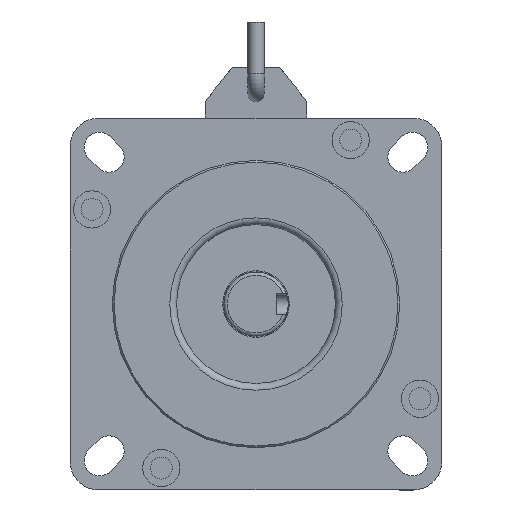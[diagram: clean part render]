
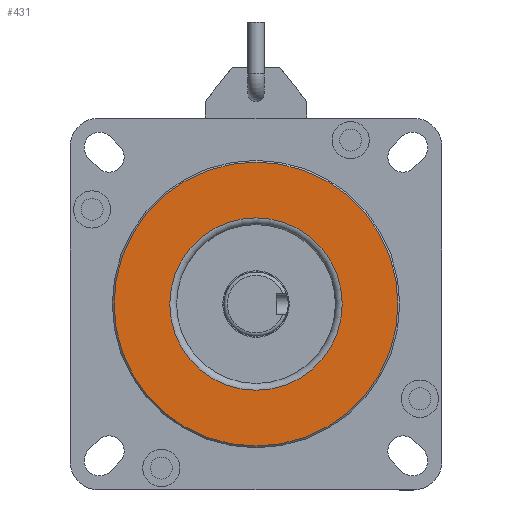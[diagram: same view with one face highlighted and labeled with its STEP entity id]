
A CAD part, front view. The second image highlights one B-rep face of the part: STEP entity #431.
In plain terms, the highlighted planar face has unit normal (0, -1, 0).
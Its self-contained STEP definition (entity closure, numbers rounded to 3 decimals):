
#255=FACE_BOUND('',#969,.T.);
#256=FACE_BOUND('',#970,.T.);
#431=ADVANCED_FACE('',(#255,#256),#600,.T.);
#600=PLANE('',#4184);
#969=EDGE_LOOP('',(#2303));
#970=EDGE_LOOP('',(#2304));
#2303=ORIENTED_EDGE('',*,*,#3490,.T.);
#2304=ORIENTED_EDGE('',*,*,#3491,.T.);
#3036=VERTEX_POINT('',#6276);
#3037=VERTEX_POINT('',#6278);
#3490=EDGE_CURVE('',#3036,#3036,#3851,.T.);
#3491=EDGE_CURVE('',#3037,#3037,#3852,.T.);
#3851=CIRCLE('',#4182,42.);
#3852=CIRCLE('',#4183,25.5);
#4182=AXIS2_PLACEMENT_3D('',#6275,#5024,#5025);
#4183=AXIS2_PLACEMENT_3D('',#6277,#5026,#5027);
#4184=AXIS2_PLACEMENT_3D('',#6279,#5028,#5029);
#5024=DIRECTION('',(0.,-1.,0.));
#5025=DIRECTION('',(0.,0.,-1.));
#5026=DIRECTION('',(0.,1.,0.));
#5027=DIRECTION('',(0.,0.,1.));
#5028=DIRECTION('',(0.,-1.,0.));
#5029=DIRECTION('',(0.,0.,-1.));
#6275=CARTESIAN_POINT('',(98.301,101.012,48.25));
#6276=CARTESIAN_POINT('',(98.301,101.012,6.25));
#6277=CARTESIAN_POINT('',(98.301,101.012,48.25));
#6278=CARTESIAN_POINT('',(98.301,101.012,73.75));
#6279=CARTESIAN_POINT('',(98.301,101.012,48.25));
